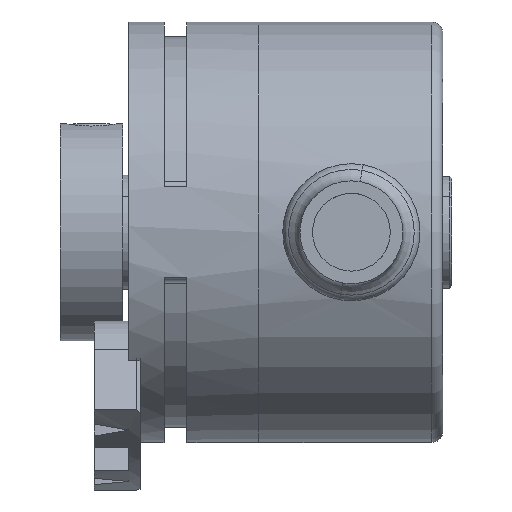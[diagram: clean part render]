
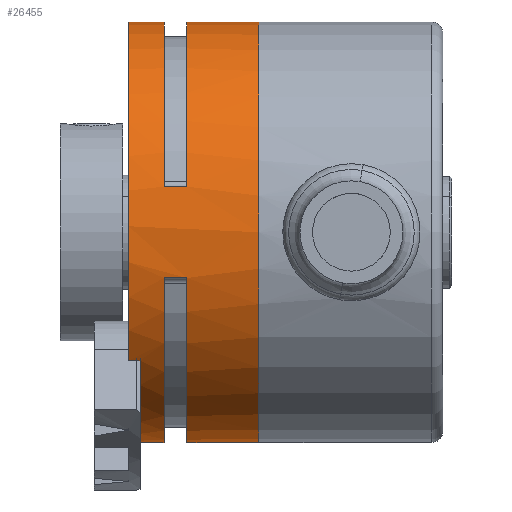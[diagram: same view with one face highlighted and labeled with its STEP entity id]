
A CAD part, front view. The second image highlights one B-rep face of the part: STEP entity #26455.
In plain terms, the highlighted cylindrical face has radius 18.4 mm (diameter 36.8 mm), a partial arc.
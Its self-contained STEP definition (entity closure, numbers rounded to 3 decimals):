
#249 = VERTEX_POINT ( 'NONE', #30356 ) ;
#281 = VERTEX_POINT ( 'NONE', #30643 ) ;
#363 = EDGE_CURVE ( 'NONE', #36904, #404, #31021, .T. ) ;
#388 = EDGE_CURVE ( 'NONE', #281, #249, #31149, .T. ) ;
#404 = VERTEX_POINT ( 'NONE', #31194 ) ;
#10468 = CARTESIAN_POINT ( 'NONE',  ( 84.26, -17.498, 18.4 ) ) ;
#10969 = VERTEX_POINT ( 'NONE', #19452 ) ;
#11000 = VERTEX_POINT ( 'NONE', #19541 ) ;
#11022 = EDGE_CURVE ( 'NONE', #10969, #11026, #19769, .T. ) ;
#11026 = VERTEX_POINT ( 'NONE', #19761 ) ;
#15317 = VECTOR ( 'NONE', #15319, 1000. ) ;
#15319 = DIRECTION ( 'NONE',  ( -1., 0., 0. ) ) ;
#15413 = FACE_OUTER_BOUND ( 'NONE', #26457, .T. ) ;
#15415 = CARTESIAN_POINT ( 'NONE',  ( 81.16, -32.069, -11.237 ) ) ;
#15416 = CARTESIAN_POINT ( 'NONE',  ( 84.26, -35.458, 4. ) ) ;
#15471 = CARTESIAN_POINT ( 'NONE',  ( 86.26, -35.458, 4. ) ) ;
#15473 = DIRECTION ( 'NONE',  ( -1., 0., 0. ) ) ;
#15474 = VECTOR ( 'NONE', #15473, 1000. ) ;
#15475 = CARTESIAN_POINT ( 'NONE',  ( 86.26, -35.458, 4. ) ) ;
#15476 = LINE ( 'NONE', #15475, #15474 ) ;
#15478 = DIRECTION ( 'NONE',  ( 0., 0., -1. ) ) ;
#15479 = DIRECTION ( 'NONE',  ( 1., 0., 0. ) ) ;
#15480 = CARTESIAN_POINT ( 'NONE',  ( 86.26, -17.498, 0. ) ) ;
#15481 = AXIS2_PLACEMENT_3D ( 'NONE', #15480, #15479, #15478 ) ;
#15484 = DIRECTION ( 'NONE',  ( 0., 0., 1. ) ) ;
#15485 = DIRECTION ( 'NONE',  ( -1., 0., 0. ) ) ;
#15486 = AXIS2_PLACEMENT_3D ( 'NONE', #15491, #15485, #15484 ) ;
#15488 = CYLINDRICAL_SURFACE ( 'NONE', #15486, 18.4 ) ;
#15489 = CIRCLE ( 'NONE', #15481, 18.4 ) ;
#15491 = CARTESIAN_POINT ( 'NONE',  ( 76.76, -17.498, 0. ) ) ;
#15624 = CARTESIAN_POINT ( 'NONE',  ( 86.26, -35.458, -4. ) ) ;
#15625 = DIRECTION ( 'NONE',  ( -1., 0., 0. ) ) ;
#15626 = VECTOR ( 'NONE', #15625, 1000. ) ;
#15627 = CARTESIAN_POINT ( 'NONE',  ( 86.26, -35.458, -4. ) ) ;
#15628 = LINE ( 'NONE', #15627, #15626 ) ;
#15681 = CARTESIAN_POINT ( 'NONE',  ( 86.26, -17.498, 0. ) ) ;
#15692 = DIRECTION ( 'NONE',  ( -1., 0., 0. ) ) ;
#15693 = VECTOR ( 'NONE', #15692, 1000. ) ;
#15696 = CARTESIAN_POINT ( 'NONE',  ( 82.16, -32.069, -11.237 ) ) ;
#15697 = LINE ( 'NONE', #15696, #15693 ) ;
#15705 = DIRECTION ( 'NONE',  ( 0., 0., 1. ) ) ;
#15707 = DIRECTION ( 'NONE',  ( -1., 0., 0. ) ) ;
#15709 = CARTESIAN_POINT ( 'NONE',  ( 81.16, -17.498, 0. ) ) ;
#15710 = AXIS2_PLACEMENT_3D ( 'NONE', #15709, #15707, #15705 ) ;
#15711 = CIRCLE ( 'NONE', #15710, 18.4 ) ;
#15729 = CARTESIAN_POINT ( 'NONE',  ( 82.16, -19.944, -18.237 ) ) ;
#15741 = LINE ( 'NONE', #15729, #15317 ) ;
#15775 = DIRECTION ( 'NONE',  ( 0., 0., -1. ) ) ;
#15777 = DIRECTION ( 'NONE',  ( 1., 0., 0. ) ) ;
#15779 = AXIS2_PLACEMENT_3D ( 'NONE', #15681, #15777, #15775 ) ;
#15781 = CIRCLE ( 'NONE', #15779, 18.4 ) ;
#15808 = DIRECTION ( 'NONE',  ( 0., 0., 1. ) ) ;
#15809 = DIRECTION ( 'NONE',  ( -1., 0., 0. ) ) ;
#15810 = CARTESIAN_POINT ( 'NONE',  ( 82.16, -17.498, 0. ) ) ;
#15811 = AXIS2_PLACEMENT_3D ( 'NONE', #15810, #15809, #15808 ) ;
#15812 = CIRCLE ( 'NONE', #15811, 18.4 ) ;
#15816 = CARTESIAN_POINT ( 'NONE',  ( 81.16, -19.944, -18.237 ) ) ;
#15817 = CARTESIAN_POINT ( 'NONE',  ( 82.16, -19.944, -18.237 ) ) ;
#15819 = CARTESIAN_POINT ( 'NONE',  ( 84.26, -35.458, -4. ) ) ;
#15822 = CARTESIAN_POINT ( 'NONE',  ( 82.16, -32.069, -11.237 ) ) ;
#15825 = DIRECTION ( 'NONE',  ( 0., 0., -1. ) ) ;
#15828 = DIRECTION ( 'NONE',  ( 1., 0., 0. ) ) ;
#15830 = CARTESIAN_POINT ( 'NONE',  ( 84.26, -17.498, 0. ) ) ;
#15832 = AXIS2_PLACEMENT_3D ( 'NONE', #15830, #15828, #15825 ) ;
#15833 = CIRCLE ( 'NONE', #15832, 18.4 ) ;
#15855 = DIRECTION ( 'NONE',  ( 0., 0., 1. ) ) ;
#15856 = DIRECTION ( 'NONE',  ( -1., 0., 0. ) ) ;
#15857 = CARTESIAN_POINT ( 'NONE',  ( 81.16, -17.498, 0. ) ) ;
#15858 = AXIS2_PLACEMENT_3D ( 'NONE', #15857, #15856, #15855 ) ;
#15859 = CIRCLE ( 'NONE', #15858, 18.4 ) ;
#15862 = DIRECTION ( 'NONE',  ( 0., 0., 1. ) ) ;
#15863 = DIRECTION ( 'NONE',  ( -1., 0., 0. ) ) ;
#15864 = CARTESIAN_POINT ( 'NONE',  ( 92.56, -17.498, 0. ) ) ;
#15865 = AXIS2_PLACEMENT_3D ( 'NONE', #15864, #15863, #15862 ) ;
#15866 = CIRCLE ( 'NONE', #15865, 18.4 ) ;
#15868 = DIRECTION ( 'NONE',  ( 0., 0., -1. ) ) ;
#15869 = DIRECTION ( 'NONE',  ( 1., 0., 0. ) ) ;
#15871 = CARTESIAN_POINT ( 'NONE',  ( 84.26, -17.498, 0. ) ) ;
#15872 = AXIS2_PLACEMENT_3D ( 'NONE', #15871, #15869, #15868 ) ;
#15879 = CIRCLE ( 'NONE', #15872, 18.4 ) ;
#19452 = CARTESIAN_POINT ( 'NONE',  ( 92.56, -17.498, -18.4 ) ) ;
#19541 = CARTESIAN_POINT ( 'NONE',  ( 92.56, -17.498, 18.4 ) ) ;
#19761 = CARTESIAN_POINT ( 'NONE',  ( 86.26, -17.498, -18.4 ) ) ;
#19766 = DIRECTION ( 'NONE',  ( -1., 0., 0. ) ) ;
#19767 = VECTOR ( 'NONE', #19766, 1000. ) ;
#19768 = CARTESIAN_POINT ( 'NONE',  ( 76.76, -17.498, -18.4 ) ) ;
#19769 = LINE ( 'NONE', #19768, #19767 ) ;
#23418 = EDGE_CURVE ( 'NONE', #11000, #23427, #31548, .T. ) ;
#23427 = VERTEX_POINT ( 'NONE', #31620 ) ;
#26263 = ORIENTED_EDGE ( 'NONE', *, *, #26559, .F. ) ;
#26441 = VERTEX_POINT ( 'NONE', #15416 ) ;
#26443 = VERTEX_POINT ( 'NONE', #15415 ) ;
#26447 = ORIENTED_EDGE ( 'NONE', *, *, #26584, .F. ) ;
#26453 = ORIENTED_EDGE ( 'NONE', *, *, #26593, .T. ) ;
#26455 = ADVANCED_FACE ( 'NONE', ( #15413 ), #15488, .T. ) ;
#26457 = EDGE_LOOP ( 'NONE', ( #26597, #26453, #26589, #26588, #26598, #26447, #26586, #26587, #26263, #26570, #26566, #26531, #26581, #26582, #26526, #26561 ) ) ;
#26459 = EDGE_CURVE ( 'NONE', #23427, #26462, #15489, .T. ) ;
#26460 = EDGE_CURVE ( 'NONE', #26462, #26441, #15476, .T. ) ;
#26462 = VERTEX_POINT ( 'NONE', #15471 ) ;
#26526 = ORIENTED_EDGE ( 'NONE', *, *, #26528, .F. ) ;
#26528 = EDGE_CURVE ( 'NONE', #26529, #26577, #15628, .T. ) ;
#26529 = VERTEX_POINT ( 'NONE', #15624 ) ;
#26531 = ORIENTED_EDGE ( 'NONE', *, *, #26555, .F. ) ;
#26555 = EDGE_CURVE ( 'NONE', #249, #26579, #15711, .T. ) ;
#26559 = EDGE_CURVE ( 'NONE', #26576, #26443, #15697, .T. ) ;
#26561 = ORIENTED_EDGE ( 'NONE', *, *, #26562, .T. ) ;
#26562 = EDGE_CURVE ( 'NONE', #26529, #11026, #15781, .T. ) ;
#26566 = ORIENTED_EDGE ( 'NONE', *, *, #26568, .T. ) ;
#26568 = EDGE_CURVE ( 'NONE', #26578, #26579, #15741, .T. ) ;
#26570 = ORIENTED_EDGE ( 'NONE', *, *, #26580, .F. ) ;
#26575 = EDGE_CURVE ( 'NONE', #26577, #281, #15833, .T. ) ;
#26576 = VERTEX_POINT ( 'NONE', #15822 ) ;
#26577 = VERTEX_POINT ( 'NONE', #15819 ) ;
#26578 = VERTEX_POINT ( 'NONE', #15817 ) ;
#26579 = VERTEX_POINT ( 'NONE', #15816 ) ;
#26580 = EDGE_CURVE ( 'NONE', #26578, #26576, #15812, .T. ) ;
#26581 = ORIENTED_EDGE ( 'NONE', *, *, #388, .F. ) ;
#26582 = ORIENTED_EDGE ( 'NONE', *, *, #26575, .F. ) ;
#26584 = EDGE_CURVE ( 'NONE', #36904, #26441, #15879, .T. ) ;
#26586 = ORIENTED_EDGE ( 'NONE', *, *, #363, .T. ) ;
#26587 = ORIENTED_EDGE ( 'NONE', *, *, #26596, .F. ) ;
#26588 = ORIENTED_EDGE ( 'NONE', *, *, #26459, .T. ) ;
#26589 = ORIENTED_EDGE ( 'NONE', *, *, #23418, .T. ) ;
#26593 = EDGE_CURVE ( 'NONE', #10969, #11000, #15866, .T. ) ;
#26596 = EDGE_CURVE ( 'NONE', #26443, #404, #15859, .T. ) ;
#26597 = ORIENTED_EDGE ( 'NONE', *, *, #11022, .F. ) ;
#26598 = ORIENTED_EDGE ( 'NONE', *, *, #26460, .T. ) ;
#30356 = CARTESIAN_POINT ( 'NONE',  ( 81.16, -17.498, -18.4 ) ) ;
#30643 = CARTESIAN_POINT ( 'NONE',  ( 84.26, -17.498, -18.4 ) ) ;
#31018 = DIRECTION ( 'NONE',  ( -1., 0., 0. ) ) ;
#31019 = VECTOR ( 'NONE', #31018, 1000. ) ;
#31020 = CARTESIAN_POINT ( 'NONE',  ( 76.76, -17.498, 18.4 ) ) ;
#31021 = LINE ( 'NONE', #31020, #31019 ) ;
#31145 = DIRECTION ( 'NONE',  ( -1., 0., 0. ) ) ;
#31147 = VECTOR ( 'NONE', #31145, 1000. ) ;
#31148 = CARTESIAN_POINT ( 'NONE',  ( 76.76, -17.498, -18.4 ) ) ;
#31149 = LINE ( 'NONE', #31148, #31147 ) ;
#31194 = CARTESIAN_POINT ( 'NONE',  ( 81.16, -17.498, 18.4 ) ) ;
#31544 = DIRECTION ( 'NONE',  ( -1., 0., 0. ) ) ;
#31545 = VECTOR ( 'NONE', #31544, 1000. ) ;
#31546 = CARTESIAN_POINT ( 'NONE',  ( 76.76, -17.498, 18.4 ) ) ;
#31548 = LINE ( 'NONE', #31546, #31545 ) ;
#31620 = CARTESIAN_POINT ( 'NONE',  ( 86.26, -17.498, 18.4 ) ) ;
#36904 = VERTEX_POINT ( 'NONE', #10468 ) ;
